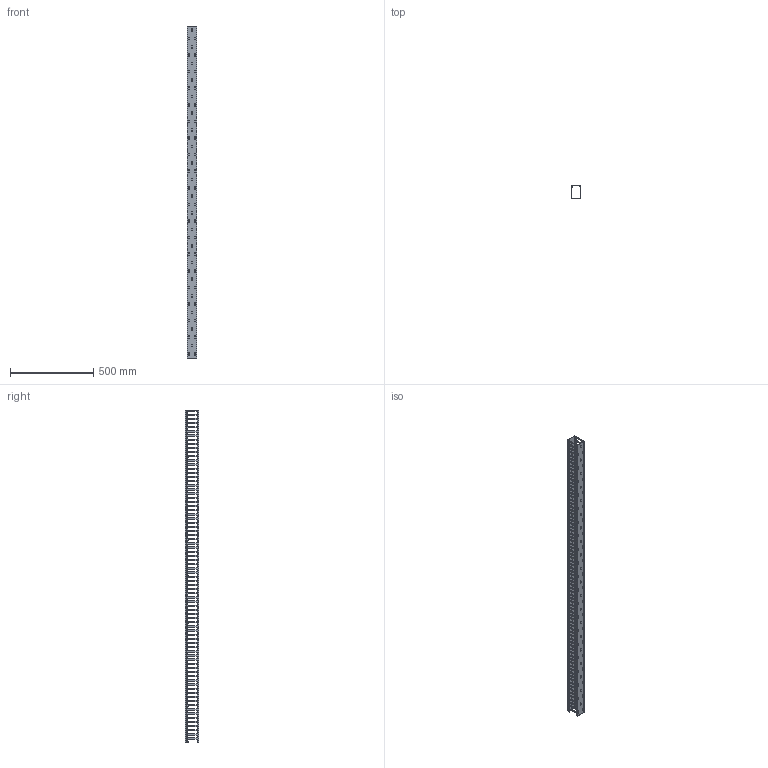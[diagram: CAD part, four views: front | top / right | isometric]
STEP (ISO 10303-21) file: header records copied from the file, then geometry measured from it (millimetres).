
FILE_DESCRIPTION (( 'STEP AP214' ), '1' );
FILE_NAME ('KD-68-20-LL.STEP', '2020-02-19T00:44:55', ( '' ), ( '' ), 'SwSTEP 2.0', 'SolidWorks 2018', '' );
FILE_SCHEMA (( 'AUTOMOTIVE_DESIGN' ));
Length unit declared in the file: millimetre
Products named in the file (3): KD-68-20-LL-body; KD-64-20-cover; KD-68-20-LL
Assembly tree (2 placements, depth 2):
  KD-68-20-LL
    KD-68-20-LL-body
    KD-64-20-cover
Bounding box: 60 x 80.17 x 2000 mm (x, y, z)
Volume: 755302 mm3; surface area: 969155.6 mm2
Topology: 2 solids, 2 shells, 1643 faces, 4917 edges, 3278 vertices
Faces by surface type: cylinder 857, plane 786
Entity records: 56827 total; most frequent: DIRECTION 9927, CARTESIAN_POINT 9843, ORIENTED_EDGE 9834, EDGE_CURVE 4917, AXIS2_PLACEMENT_3D 3362, VERTEX_POINT 3278, LINE 3203, VECTOR 3203
